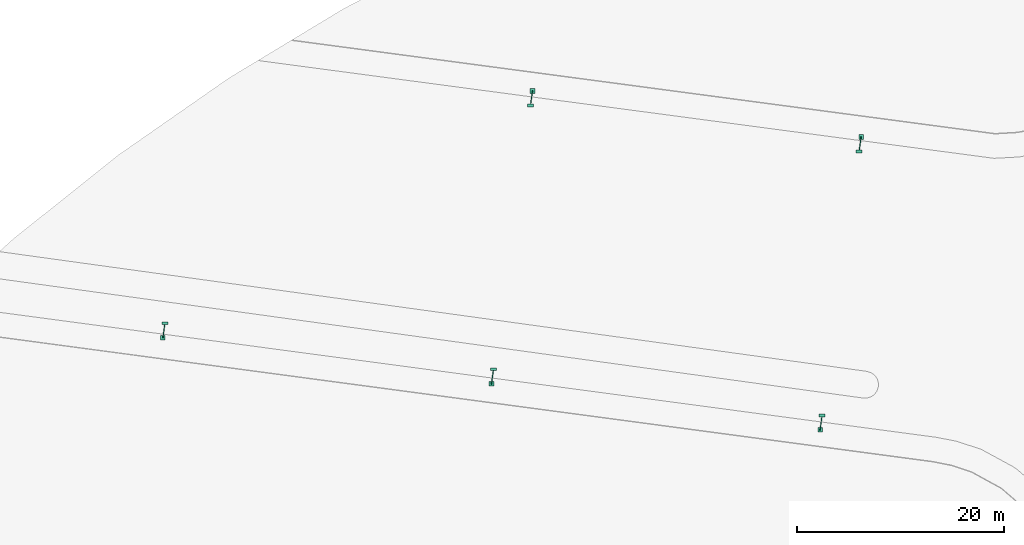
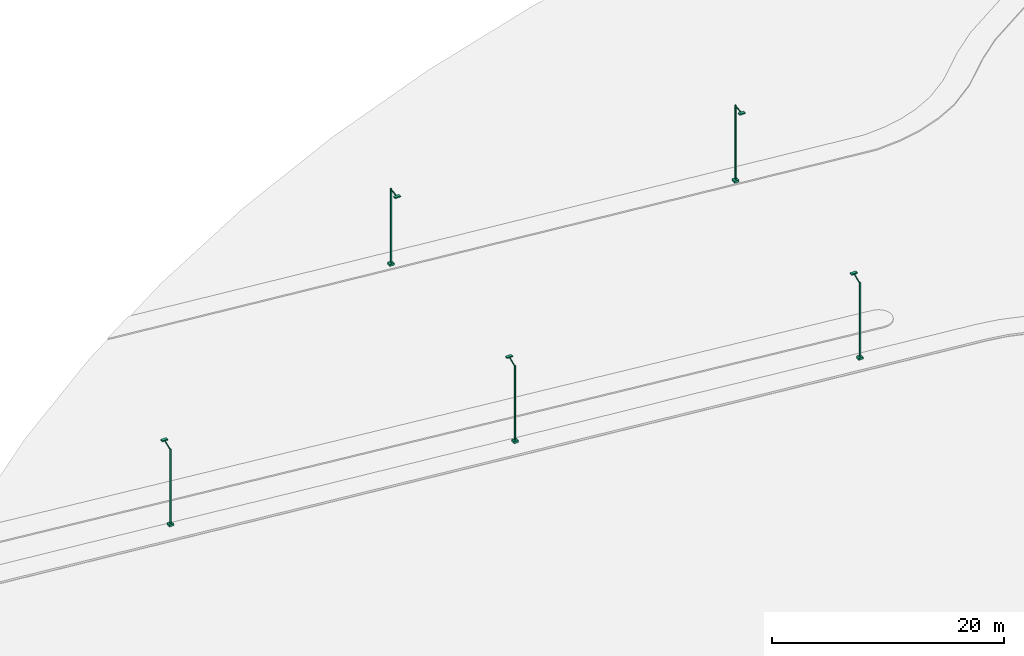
# Not in any storey, part 62 of 75: 5 light fixtures.
"""IFC4 model written with IfcOpenShell, lengths in metres."""

from ifc_helpers import new_model, si_unit, direction, origin, origin_with_axes, place, context, subcontext, project, spatial, triangles, element, save


model = new_model("IFC4")

# Units and contexts
model_context = context("Model", 3, precision=1e-05, world=origin_with_axes(), true_north=direction((0.0, 1.0)))
body_context = subcontext(model_context, "Body", "Model", "MODEL_VIEW")
ifc_project = project(units=[si_unit("AREAUNIT", "SQUARE_METRE"), si_unit("VOLUMEUNIT", "CUBIC_METRE"), si_unit("LENGTHUNIT", "METRE")], contexts=[model_context])

# Site
site_placement = place(None, origin_with_axes())
site = spatial("IfcSite", under=ifc_project, at=site_placement, Name="Parcela industrial Jinhong")

# Light fixtures
light_fixture_1_placement = place(None, origin())
element("IfcLightFixture", 1, at=light_fixture_1_placement, inside=site, Name="Luminaria del entorno · ilustrativa 24", ObjectType="Luminaria del entorno · ilustrativa 24", PredefinedType="USERDEFINED", context=body_context, shape_type="Tessellation", body=[
    triangles([(-114.94074, 251.816158, -0.083402), (-114.94074, 251.816158, 0.116598), (-114.94074, 252.266158, -0.083402), (-114.94074, 252.266158, 0.116598), (-114.49074, 251.816158, -0.083402), (-114.49074, 251.816158, 0.116598), (-114.49074, 252.266158, -0.083402), (-114.49074, 252.266158, 0.116598)], [[2, 4, 1], [5, 2, 1], [1, 4, 3], [3, 5, 1], [2, 8, 4], [6, 2, 5], [6, 8, 2], [4, 8, 3], [7, 5, 3], [3, 8, 7], [7, 6, 5], [8, 6, 7]], closed=True),
    triangles([(-114.77574, 251.981158, 0.116598), (-114.77574, 251.981158, 7.916598), (-114.77574, 252.101158, 0.116598), (-114.77574, 252.101158, 7.916598), (-114.65574, 251.981158, 0.116598), (-114.65574, 251.981158, 7.916598), (-114.65574, 252.101158, 0.116598), (-114.65574, 252.101158, 7.916598)], [[2, 4, 1], [5, 2, 1], [1, 4, 3], [3, 5, 1], [2, 8, 4], [6, 2, 5], [6, 8, 2], [4, 8, 3], [7, 5, 3], [3, 8, 7], [7, 6, 5], [8, 6, 7]], closed=True),
    triangles([(-114.680614, 252.031553, 7.859887), (-114.486376, 253.418013, 8.009887), (-114.759389, 252.043387, 7.852512), (-114.565151, 253.429847, 8.002512), (-114.672091, 252.038928, 7.780685), (-114.477853, 253.425388, 7.930685), (-114.750867, 252.050762, 7.77331), (-114.556628, 253.437222, 7.92331)], [[2, 4, 1], [5, 2, 1], [1, 4, 3], [3, 5, 1], [2, 8, 4], [6, 2, 5], [6, 8, 2], [4, 8, 3], [7, 5, 3], [3, 8, 7], [7, 6, 5], [8, 6, 7]], closed=True),
    triangles([(-114.811502, 253.287618, 7.906598), (-114.811502, 253.287618, 8.026598), (-114.811502, 253.567618, 7.906598), (-114.811502, 253.567618, 8.026598), (-114.231502, 253.287618, 7.906598), (-114.231502, 253.287618, 8.026598), (-114.231502, 253.567618, 7.906598), (-114.231502, 253.567618, 8.026598)], [[2, 4, 1], [5, 2, 1], [1, 4, 3], [3, 5, 1], [2, 8, 4], [6, 2, 5], [6, 8, 2], [4, 8, 3], [7, 5, 3], [3, 8, 7], [7, 6, 5], [8, 6, 7]], closed=True),
])
light_fixture_2_placement = place(None, origin())
element("IfcLightFixture", 2, at=light_fixture_2_placement, inside=site, Name="Luminaria del entorno · ilustrativa 25", ObjectType="Luminaria del entorno · ilustrativa 25", PredefinedType="USERDEFINED", context=body_context, shape_type="Tessellation", body=[
    triangles([(-83.250225, 247.376424, 0.265133), (-83.250225, 247.376424, 0.465133), (-83.250225, 247.826424, 0.265133), (-83.250225, 247.826424, 0.465133), (-82.800225, 247.376424, 0.265133), (-82.800225, 247.376424, 0.465133), (-82.800225, 247.826424, 0.265133), (-82.800225, 247.826424, 0.465133)], [[2, 4, 1], [5, 2, 1], [1, 4, 3], [3, 5, 1], [2, 8, 4], [6, 2, 5], [6, 8, 2], [4, 8, 3], [7, 5, 3], [3, 8, 7], [7, 6, 5], [8, 6, 7]], closed=True),
    triangles([(-83.085225, 247.541424, 0.465133), (-83.085225, 247.541424, 8.265133), (-83.085225, 247.661424, 0.465133), (-83.085225, 247.661424, 8.265133), (-82.965225, 247.541424, 0.465133), (-82.965225, 247.541424, 8.265133), (-82.965225, 247.661424, 0.465133), (-82.965225, 247.661424, 8.265133)], [[2, 4, 1], [5, 2, 1], [1, 4, 3], [3, 5, 1], [2, 8, 4], [6, 2, 5], [6, 8, 2], [4, 8, 3], [7, 5, 3], [3, 8, 7], [7, 6, 5], [8, 6, 7]], closed=True),
    triangles([(-82.990099, 247.591819, 8.208421), (-82.79586, 248.978279, 8.358421), (-83.068874, 247.603653, 8.201047), (-82.874636, 248.990113, 8.351047), (-82.981576, 247.599194, 8.129219), (-82.787338, 248.985654, 8.279219), (-83.060351, 247.611028, 8.121845), (-82.866113, 248.997488, 8.271845)], [[2, 4, 1], [5, 2, 1], [1, 4, 3], [3, 5, 1], [2, 8, 4], [6, 2, 5], [6, 8, 2], [4, 8, 3], [7, 5, 3], [3, 8, 7], [7, 6, 5], [8, 6, 7]], closed=True),
    triangles([(-83.120987, 248.847884, 8.255133), (-83.120987, 248.847884, 8.375133), (-83.120987, 249.127884, 8.255133), (-83.120987, 249.127884, 8.375133), (-82.540987, 248.847884, 8.255133), (-82.540987, 248.847884, 8.375133), (-82.540987, 249.127884, 8.255133), (-82.540987, 249.127884, 8.375133)], [[2, 4, 1], [5, 2, 1], [1, 4, 3], [3, 5, 1], [2, 8, 4], [6, 2, 5], [6, 8, 2], [4, 8, 3], [7, 5, 3], [3, 8, 7], [7, 6, 5], [8, 6, 7]], closed=True),
])
light_fixture_3_placement = place(None, origin())
element("IfcLightFixture", 3, at=light_fixture_3_placement, inside=site, Name="Luminaria del entorno · ilustrativa 26", ObjectType="Luminaria del entorno · ilustrativa 26", PredefinedType="USERDEFINED", context=body_context, shape_type="Tessellation", body=[
    triangles([(-79.296087, 275.600789, 0.385409), (-79.296087, 275.600789, 0.585409), (-79.296087, 276.050789, 0.385409), (-79.296087, 276.050789, 0.585409), (-78.846087, 275.600789, 0.385409), (-78.846087, 275.600789, 0.585409), (-78.846087, 276.050789, 0.385409), (-78.846087, 276.050789, 0.585409)], [[2, 4, 1], [5, 2, 1], [1, 4, 3], [3, 5, 1], [2, 8, 4], [6, 2, 5], [6, 8, 2], [4, 8, 3], [7, 5, 3], [3, 8, 7], [7, 6, 5], [8, 6, 7]], closed=True),
    triangles([(-79.131087, 275.765789, 0.585409), (-79.131087, 275.765789, 8.385409), (-79.131087, 275.885789, 0.585409), (-79.131087, 275.885789, 8.385409), (-79.011087, 275.765789, 0.585409), (-79.011087, 275.765789, 8.385409), (-79.011087, 275.885789, 0.585409), (-79.011087, 275.885789, 8.385409)], [[2, 4, 1], [5, 2, 1], [1, 4, 3], [3, 5, 1], [2, 8, 4], [6, 2, 5], [6, 8, 2], [4, 8, 3], [7, 5, 3], [3, 8, 7], [7, 6, 5], [8, 6, 7]], closed=True),
    triangles([(-79.03596, 275.816184, 8.24212), (-79.230199, 274.429724, 8.39212), (-79.114736, 275.828018, 8.249495), (-79.308974, 274.441558, 8.399495), (-79.027438, 275.823559, 8.321323), (-79.221676, 274.437099, 8.471323), (-79.106213, 275.835393, 8.328697), (-79.300452, 274.448933, 8.478697)], [[2, 4, 1], [5, 2, 1], [1, 4, 3], [3, 5, 1], [2, 8, 4], [6, 2, 5], [6, 8, 2], [4, 8, 3], [7, 5, 3], [3, 8, 7], [7, 6, 5], [8, 6, 7]], closed=True),
    triangles([(-79.555325, 274.299329, 8.375409), (-79.555325, 274.299329, 8.495409), (-79.555325, 274.579329, 8.375409), (-79.555325, 274.579329, 8.495409), (-78.975325, 274.299329, 8.375409), (-78.975325, 274.299329, 8.495409), (-78.975325, 274.579329, 8.375409), (-78.975325, 274.579329, 8.495409)], [[2, 4, 1], [5, 2, 1], [1, 4, 3], [3, 5, 1], [2, 8, 4], [6, 2, 5], [6, 8, 2], [4, 8, 3], [7, 5, 3], [3, 8, 7], [7, 6, 5], [8, 6, 7]], closed=True),
])
light_fixture_4_placement = place(None, origin())
element("IfcLightFixture", 4, at=light_fixture_4_placement, inside=site, Name="Luminaria del entorno · ilustrativa 27", ObjectType="Luminaria del entorno · ilustrativa 27", PredefinedType="USERDEFINED", context=body_context, shape_type="Tessellation", body=[
    triangles([(-51.55971, 242.93669, 0.613668), (-51.55971, 242.93669, 0.813668), (-51.55971, 243.38669, 0.613668), (-51.55971, 243.38669, 0.813668), (-51.10971, 242.93669, 0.613668), (-51.10971, 242.93669, 0.813668), (-51.10971, 243.38669, 0.613668), (-51.10971, 243.38669, 0.813668)], [[2, 4, 1], [5, 2, 1], [1, 4, 3], [3, 5, 1], [2, 8, 4], [6, 2, 5], [6, 8, 2], [4, 8, 3], [7, 5, 3], [3, 8, 7], [7, 6, 5], [8, 6, 7]], closed=True),
    triangles([(-51.39471, 243.10169, 0.813668), (-51.39471, 243.10169, 8.613668), (-51.39471, 243.22169, 0.813668), (-51.39471, 243.22169, 8.613668), (-51.27471, 243.10169, 0.813668), (-51.27471, 243.10169, 8.613668), (-51.27471, 243.22169, 0.813668), (-51.27471, 243.22169, 8.613668)], [[2, 4, 1], [5, 2, 1], [1, 4, 3], [3, 5, 1], [2, 8, 4], [6, 2, 5], [6, 8, 2], [4, 8, 3], [7, 5, 3], [3, 8, 7], [7, 6, 5], [8, 6, 7]], closed=True),
    triangles([(-51.299583, 243.152085, 8.556956), (-51.105345, 244.538545, 8.706956), (-51.378359, 243.163919, 8.549581), (-51.18412, 244.550379, 8.699581), (-51.291061, 243.15946, 8.477754), (-51.096822, 244.54592, 8.627754), (-51.369836, 243.171294, 8.470379), (-51.175598, 244.557754, 8.620379)], [[2, 4, 1], [5, 2, 1], [1, 4, 3], [3, 5, 1], [2, 8, 4], [6, 2, 5], [6, 8, 2], [4, 8, 3], [7, 5, 3], [3, 8, 7], [7, 6, 5], [8, 6, 7]], closed=True),
    triangles([(-51.430471, 244.40815, 8.603668), (-51.430471, 244.40815, 8.723668), (-51.430471, 244.68815, 8.603668), (-51.430471, 244.68815, 8.723668), (-50.850471, 244.40815, 8.603668), (-50.850471, 244.40815, 8.723668), (-50.850471, 244.68815, 8.603668), (-50.850471, 244.68815, 8.723668)], [[2, 4, 1], [5, 2, 1], [1, 4, 3], [3, 5, 1], [2, 8, 4], [6, 2, 5], [6, 8, 2], [4, 8, 3], [7, 5, 3], [3, 8, 7], [7, 6, 5], [8, 6, 7]], closed=True),
])
light_fixture_5_placement = place(None, origin())
element("IfcLightFixture", 5, at=light_fixture_5_placement, inside=site, Name="Luminaria del entorno · ilustrativa 28", ObjectType="Luminaria del entorno · ilustrativa 28", PredefinedType="USERDEFINED", context=body_context, shape_type="Tessellation", body=[
    triangles([(-47.605572, 271.161055, 0.733944), (-47.605572, 271.161055, 0.933944), (-47.605572, 271.611055, 0.733944), (-47.605572, 271.611055, 0.933944), (-47.155572, 271.161055, 0.733944), (-47.155572, 271.161055, 0.933944), (-47.155572, 271.611055, 0.733944), (-47.155572, 271.611055, 0.933944)], [[2, 4, 1], [5, 2, 1], [1, 4, 3], [3, 5, 1], [2, 8, 4], [6, 2, 5], [6, 8, 2], [4, 8, 3], [7, 5, 3], [3, 8, 7], [7, 6, 5], [8, 6, 7]], closed=True),
    triangles([(-47.440572, 271.326055, 0.933944), (-47.440572, 271.326055, 8.733944), (-47.440572, 271.446055, 0.933944), (-47.440572, 271.446055, 8.733944), (-47.320572, 271.326055, 0.933944), (-47.320572, 271.326055, 8.733944), (-47.320572, 271.446055, 0.933944), (-47.320572, 271.446055, 8.733944)], [[2, 4, 1], [5, 2, 1], [1, 4, 3], [3, 5, 1], [2, 8, 4], [6, 2, 5], [6, 8, 2], [4, 8, 3], [7, 5, 3], [3, 8, 7], [7, 6, 5], [8, 6, 7]], closed=True),
    triangles([(-47.345445, 271.37645, 8.590655), (-47.539683, 269.98999, 8.740655), (-47.424221, 271.388284, 8.59803), (-47.618459, 270.001824, 8.74803), (-47.336922, 271.383825, 8.669857), (-47.531161, 269.997365, 8.819857), (-47.415698, 271.395659, 8.677232), (-47.609936, 270.009199, 8.827232)], [[2, 4, 1], [5, 2, 1], [1, 4, 3], [3, 5, 1], [2, 8, 4], [6, 2, 5], [6, 8, 2], [4, 8, 3], [7, 5, 3], [3, 8, 7], [7, 6, 5], [8, 6, 7]], closed=True),
    triangles([(-47.86481, 269.859595, 8.723944), (-47.86481, 269.859595, 8.843944), (-47.86481, 270.139595, 8.723944), (-47.86481, 270.139595, 8.843944), (-47.28481, 269.859595, 8.723944), (-47.28481, 269.859595, 8.843944), (-47.28481, 270.139595, 8.723944), (-47.28481, 270.139595, 8.843944)], [[2, 4, 1], [5, 2, 1], [1, 4, 3], [3, 5, 1], [2, 8, 4], [6, 2, 5], [6, 8, 2], [4, 8, 3], [7, 5, 3], [3, 8, 7], [7, 6, 5], [8, 6, 7]], closed=True),
])

save(model, "model.ifc")
